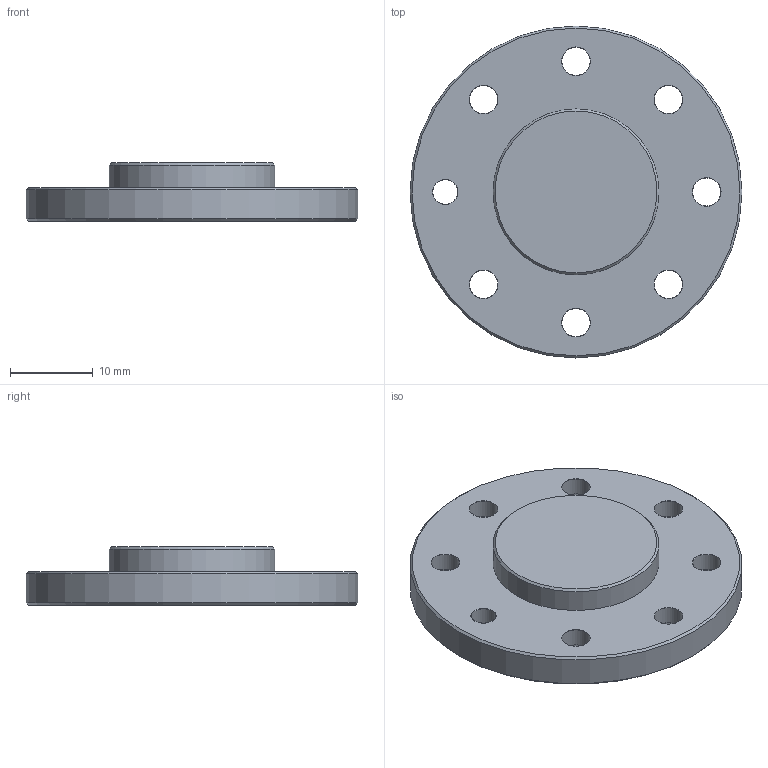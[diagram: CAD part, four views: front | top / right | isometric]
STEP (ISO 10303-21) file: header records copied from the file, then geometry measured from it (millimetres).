
FILE_DESCRIPTION (( 'STEP AP214' ), '1' );
FILE_NAME ('ROK-P005_CONFIG-ADAPTER_REV-A.step', '2022-11-08T11:48:40', ( '' ), ( '' ), 'SwSTEP 2.0', 'SolidWorks 2022', '' );
FILE_SCHEMA (( 'AUTOMOTIVE_DESIGN' ));
Length unit declared in the file: millimetre
Products named in the file (1): ROK-P005_CONFIG-ADAPTER_REV-A
Bounding box: 40 x 40 x 7 mm (x, y, z)
Volume: 5207 mm3; surface area: 3602.4 mm2
Topology: 1 solids, 1 shells, 53 faces, 115 edges, 66 vertices
Faces by surface type: cone 32, cylinder 17, plane 4
Full cylindrical faces by diameter (mm): 2.5 x4, 3 x3, 3.4 x7, 9 x1, 20 x1, 40 x1
Entity records: 1453 total; most frequent: DIRECTION 228, CARTESIAN_POINT 174, EDGE_LOOP 120, ORIENTED_EDGE 120, AXIS2_PLACEMENT_3D 114, FACE_OUTER_BOUND 70, VERTEX_POINT 60, EDGE_CURVE 60
